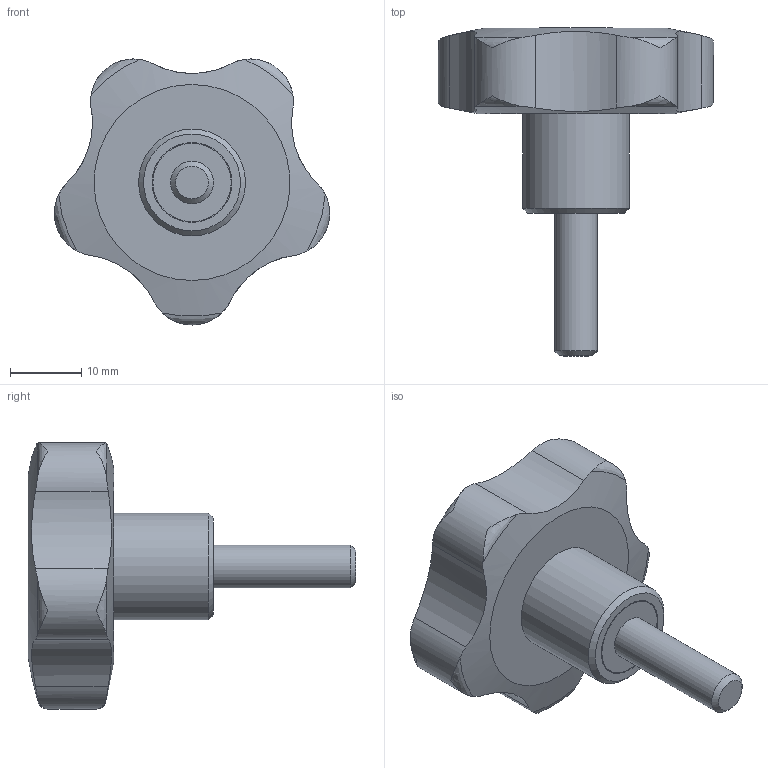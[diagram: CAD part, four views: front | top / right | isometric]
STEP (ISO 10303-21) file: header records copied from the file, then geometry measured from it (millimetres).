
FILE_DESCRIPTION( ( 'STEP AP203' ), '1' );
FILE_NAME( 'C:/Temp/Ganter_Step_05_03_2020/data/2_2/gn_5337_4/gn_5337_4_s/Star knob GN 5337.4-40-M6-20.stp', '2020-03-05T12:09:43', ( 'License CC BY-ND 4.0' ), ( 'CADENAS' ), ' ', 'PARTsolutions', ' ' );
FILE_SCHEMA( ( 'CONFIG_CONTROL_DESIGN' ) );
Length unit declared in the file: millimetre
Products named in the file (1): _Star knob GN 5337.4-40-M6-20
Bounding box: 38.62 x 46 x 37.33 mm (x, y, z)
Volume: 14039.4 mm3; surface area: 4230.9 mm2
Topology: 1 solids, 1 shells, 34 faces, 95 edges, 66 vertices
Faces by surface type: cylinder 14, torus 10, plane 5, cone 3, bspline 1, sphere 1
Full cylindrical faces by diameter (mm): 6 x1, 11 x1, 11.2 x1, 15 x1
Entity records: 1467 total; most frequent: CARTESIAN_POINT 679, ORIENTED_EDGE 164, DIRECTION 122, EDGE_CURVE 82, VERTEX_POINT 63, AXIS2_PLACEMENT_3D 56, B_SPLINE_CURVE_WITH_KNOTS 50, EDGE_LOOP 46
